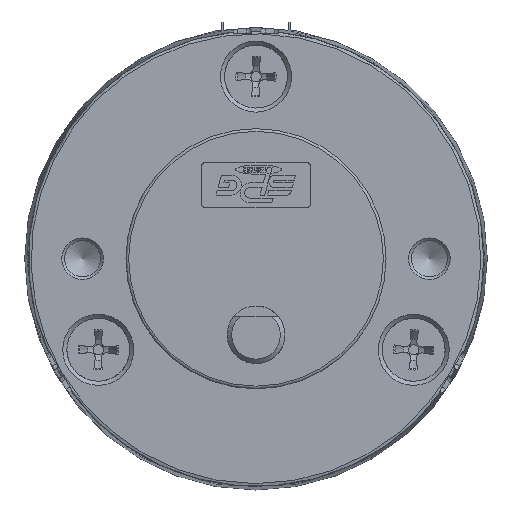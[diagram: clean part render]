
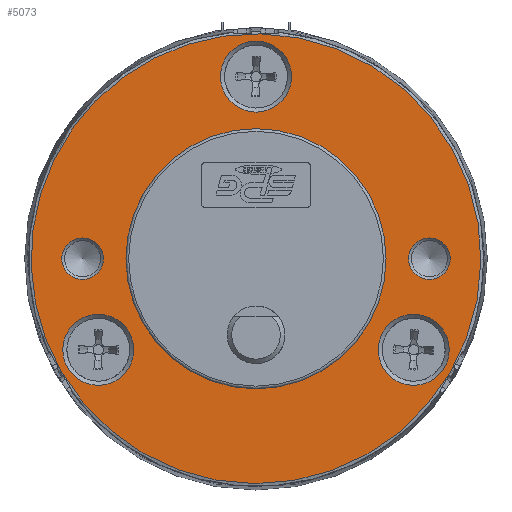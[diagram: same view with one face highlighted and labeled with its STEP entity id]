
A CAD part, front view. The second image highlights one B-rep face of the part: STEP entity #5073.
In plain terms, the highlighted planar face has unit normal (0, -1, 0).
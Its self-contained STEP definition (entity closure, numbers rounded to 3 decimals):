
#4987=CARTESIAN_POINT('',(-17.918,19.05,10.37));
#4988=VERTEX_POINT('',#4987);
#4989=CARTESIAN_POINT('',(-20.199,19.05,10.37));
#4990=DIRECTION('',(0.0,-1.0,0.0));
#4991=DIRECTION('',(-1.0,0.0,0.0));
#4992=AXIS2_PLACEMENT_3D('',#4989,#4990,#4991);
#4993=CIRCLE('',#4992,2.281);
#4994=EDGE_CURVE('',#4988,#4988,#4993,.T.);
#4999=CARTESIAN_POINT('',(-1.149,19.05,10.37));
#5000=DIRECTION('',(0.0,1.0,0.0));
#5001=DIRECTION('',(0.0,0.0,1.0));
#5002=AXIS2_PLACEMENT_3D('',#4999,#5000,#5001);
#5003=PLANE('',#5002);
#5004=CARTESIAN_POINT('',(-22.543,19.05,-1.982));
#5005=VERTEX_POINT('',#5004);
#5006=CARTESIAN_POINT('',(-1.149,19.05,10.37));
#5007=DIRECTION('',(0.0,1.0,0.0));
#5008=DIRECTION('',(0.866,0.0,0.5));
#5009=AXIS2_PLACEMENT_3D('',#5006,#5007,#5008);
#5010=CIRCLE('',#5009,24.704);
#5011=EDGE_CURVE('',#5005,#5005,#5010,.T.);
#5012=ORIENTED_EDGE('',*,*,#5011,.F.);
#5013=EDGE_LOOP('',(#5012));
#5014=FACE_OUTER_BOUND('',#5013,.T.);
#5015=CARTESIAN_POINT('',(20.182,19.05,10.37));
#5016=VERTEX_POINT('',#5015);
#5017=CARTESIAN_POINT('',(17.901,19.05,10.37));
#5018=DIRECTION('',(0.0,-1.0,0.0));
#5019=DIRECTION('',(-1.0,0.0,0.0));
#5020=AXIS2_PLACEMENT_3D('',#5017,#5018,#5019);
#5021=CIRCLE('',#5020,2.281);
#5022=EDGE_CURVE('',#5016,#5016,#5021,.T.);
#5023=ORIENTED_EDGE('',*,*,#5022,.F.);
#5024=EDGE_LOOP('',(#5023));
#5025=FACE_BOUND('',#5024,.T.);
#5026=CARTESIAN_POINT('',(13.139,19.05,10.37));
#5027=VERTEX_POINT('',#5026);
#5028=CARTESIAN_POINT('',(-1.149,19.05,10.37));
#5029=DIRECTION('',(0.0,1.0,0.0));
#5030=DIRECTION('',(-1.0,0.0,0.0));
#5031=AXIS2_PLACEMENT_3D('',#5028,#5029,#5030);
#5032=CIRCLE('',#5031,14.287);
#5033=EDGE_CURVE('',#5027,#5027,#5032,.T.);
#5034=ORIENTED_EDGE('',*,*,#5033,.T.);
#5035=EDGE_LOOP('',(#5034));
#5036=FACE_BOUND('',#5035,.T.);
#5037=CARTESIAN_POINT('',(-1.149,19.05,34.27));
#5038=VERTEX_POINT('',#5037);
#5039=CARTESIAN_POINT('',(-1.149,19.05,30.37));
#5040=DIRECTION('',(0.0,1.0,0.0));
#5041=DIRECTION('',(0.0,0.0,1.0));
#5042=AXIS2_PLACEMENT_3D('',#5039,#5040,#5041);
#5043=CIRCLE('',#5042,3.9);
#5044=EDGE_CURVE('',#5038,#5038,#5043,.T.);
#5045=ORIENTED_EDGE('',*,*,#5044,.T.);
#5046=EDGE_LOOP('',(#5045));
#5047=FACE_BOUND('',#5046,.T.);
#5048=CARTESIAN_POINT('',(-21.847,19.05,-1.58));
#5049=VERTEX_POINT('',#5048);
#5050=CARTESIAN_POINT('',(-18.469,19.05,0.37));
#5051=DIRECTION('',(0.0,1.0,0.0));
#5052=DIRECTION('',(-0.866,0.0,-0.5));
#5053=AXIS2_PLACEMENT_3D('',#5050,#5051,#5052);
#5054=CIRCLE('',#5053,3.9);
#5055=EDGE_CURVE('',#5049,#5049,#5054,.T.);
#5056=ORIENTED_EDGE('',*,*,#5055,.T.);
#5057=EDGE_LOOP('',(#5056));
#5058=FACE_BOUND('',#5057,.T.);
#5059=CARTESIAN_POINT('',(19.549,19.05,-1.58));
#5060=VERTEX_POINT('',#5059);
#5061=CARTESIAN_POINT('',(16.172,19.05,0.37));
#5062=DIRECTION('',(0.0,1.0,0.0));
#5063=DIRECTION('',(0.866,0.0,-0.5));
#5064=AXIS2_PLACEMENT_3D('',#5061,#5062,#5063);
#5065=CIRCLE('',#5064,3.9);
#5066=EDGE_CURVE('',#5060,#5060,#5065,.T.);
#5067=ORIENTED_EDGE('',*,*,#5066,.T.);
#5068=EDGE_LOOP('',(#5067));
#5069=FACE_BOUND('',#5068,.T.);
#5070=ORIENTED_EDGE('',*,*,#4994,.F.);
#5071=EDGE_LOOP('',(#5070));
#5072=FACE_BOUND('',#5071,.T.);
#5073=ADVANCED_FACE('',(#5014,#5025,#5036,#5047,#5058,#5069,#5072),#5003,.F.);
